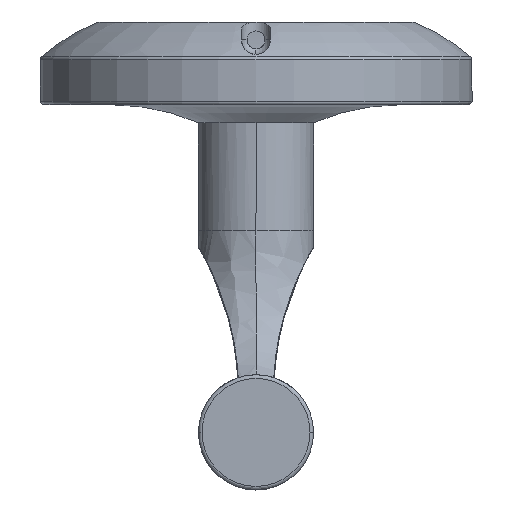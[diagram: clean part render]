
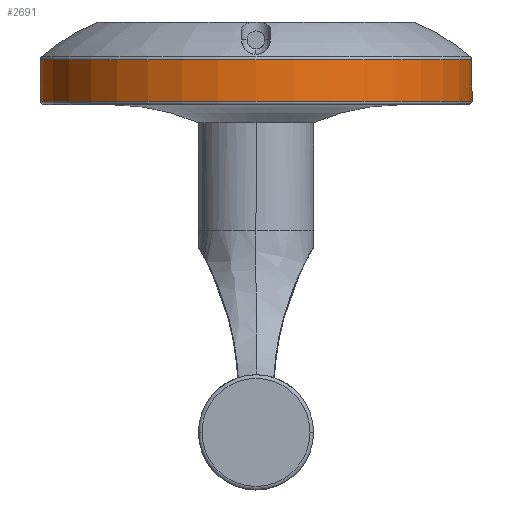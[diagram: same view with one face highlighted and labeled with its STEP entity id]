
A CAD part, front view. The second image highlights one B-rep face of the part: STEP entity #2691.
In plain terms, the highlighted cylindrical face has radius 30 mm (diameter 60 mm), a partial arc.
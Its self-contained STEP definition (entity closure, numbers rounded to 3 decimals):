
#231 = LINE ( 'NONE', #5010, #3812 ) ;
#250 = DIRECTION ( 'NONE',  ( 0., 0., -1. ) ) ;
#307 = EDGE_CURVE ( 'NONE', #6725, #2108, #565, .T. ) ;
#565 = LINE ( 'NONE', #806, #1618 ) ;
#694 = DIRECTION ( 'NONE',  ( 0., 0., 1. ) ) ;
#806 = CARTESIAN_POINT ( 'NONE',  ( -30., 0., -4.5 ) ) ;
#904 = EDGE_LOOP ( 'NONE', ( #6929, #2658, #6106, #1155 ) ) ;
#1047 = CARTESIAN_POINT ( 'NONE',  ( 0., 0., -11. ) ) ;
#1155 = ORIENTED_EDGE ( 'NONE', *, *, #4553, .T. ) ;
#1438 = CARTESIAN_POINT ( 'NONE',  ( -30., 0., -5.229 ) ) ;
#1618 = VECTOR ( 'NONE', #694, 1000. ) ;
#1642 = AXIS2_PLACEMENT_3D ( 'NONE', #6438, #6468, #5097 ) ;
#2062 = CYLINDRICAL_SURFACE ( 'NONE', #1642, 30. ) ;
#2108 = VERTEX_POINT ( 'NONE', #1438 ) ;
#2236 = DIRECTION ( 'NONE',  ( -1., 0., 0. ) ) ;
#2483 = FACE_OUTER_BOUND ( 'NONE', #904, .T. ) ;
#2545 = EDGE_CURVE ( 'NONE', #7875, #5727, #231, .T. ) ;
#2658 = ORIENTED_EDGE ( 'NONE', *, *, #7759, .T. ) ;
#2691 = ADVANCED_FACE ( 'NONE', ( #2483 ), #2062, .T. ) ;
#2902 = DIRECTION ( 'NONE',  ( 0., 0., 1. ) ) ;
#3232 = CIRCLE ( 'NONE', #5117, 30. ) ;
#3812 = VECTOR ( 'NONE', #6971, 1000. ) ;
#4553 = EDGE_CURVE ( 'NONE', #5727, #2108, #6781, .T. ) ;
#5010 = CARTESIAN_POINT ( 'NONE',  ( 30., 0., -4.5 ) ) ;
#5097 = DIRECTION ( 'NONE',  ( 1., 0., 0. ) ) ;
#5117 = AXIS2_PLACEMENT_3D ( 'NONE', #1047, #2902, #5619 ) ;
#5202 = CARTESIAN_POINT ( 'NONE',  ( -30., 0., -11. ) ) ;
#5521 = CARTESIAN_POINT ( 'NONE',  ( 0., 0., -5.229 ) ) ;
#5619 = DIRECTION ( 'NONE',  ( 1., 0., 0. ) ) ;
#5727 = VERTEX_POINT ( 'NONE', #5814 ) ;
#5814 = CARTESIAN_POINT ( 'NONE',  ( 30., 0., -5.229 ) ) ;
#6106 = ORIENTED_EDGE ( 'NONE', *, *, #2545, .T. ) ;
#6251 = AXIS2_PLACEMENT_3D ( 'NONE', #5521, #250, #2236 ) ;
#6438 = CARTESIAN_POINT ( 'NONE',  ( 0., 0., -4.5 ) ) ;
#6468 = DIRECTION ( 'NONE',  ( 0., 0., 1. ) ) ;
#6528 = CARTESIAN_POINT ( 'NONE',  ( 30., 0., -11. ) ) ;
#6725 = VERTEX_POINT ( 'NONE', #5202 ) ;
#6781 = CIRCLE ( 'NONE', #6251, 30. ) ;
#6929 = ORIENTED_EDGE ( 'NONE', *, *, #307, .F. ) ;
#6971 = DIRECTION ( 'NONE',  ( 0., 0., 1. ) ) ;
#7759 = EDGE_CURVE ( 'NONE', #6725, #7875, #3232, .T. ) ;
#7875 = VERTEX_POINT ( 'NONE', #6528 ) ;
